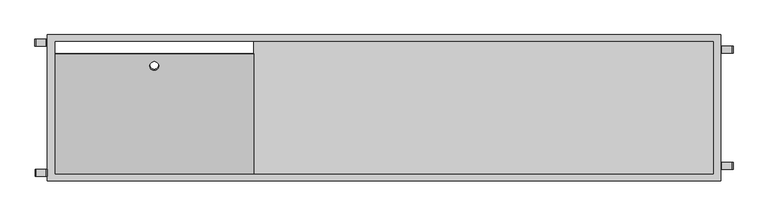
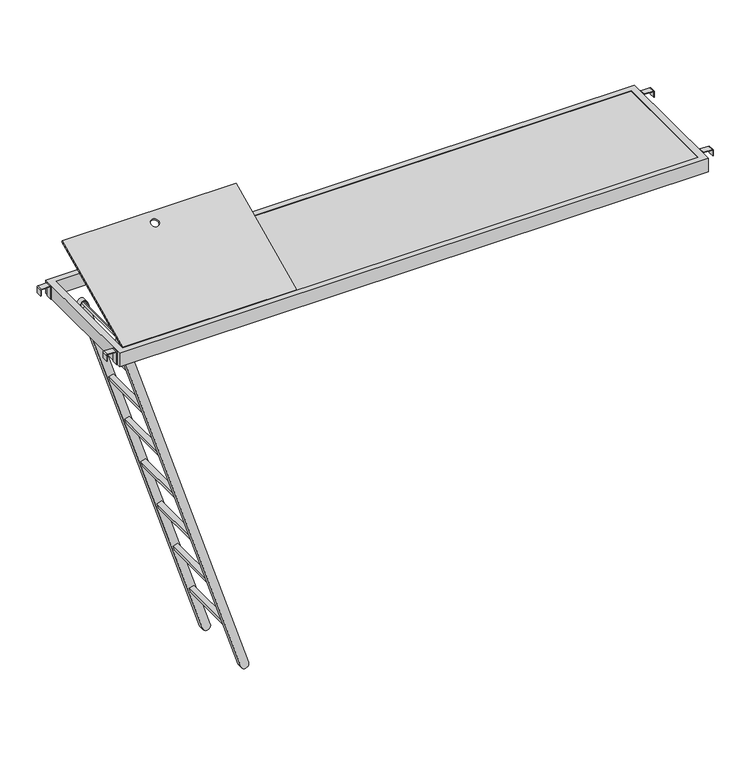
"""IFC4 building model written with IfcOpenShell, lengths in millimetres: proxy geometry, 07-Plancher trappe : JPA Plancher trappe."""

from ifc_helpers import new_model, si_unit, point, frame, frame_2d, origin, place, context, project, spatial, polyline, circle_curve, trimmed, segment, composite_curve, outline, extrude, source, transform, mapped, element, save


def generic_models_870fb608(model_context):
    return source(origin(), model_context, "Body", "SweptSolid", [
        extrude(outline(composite_curve([segment(polyline([(-54.1630286, 94.4374889), (-61.8230668, 96.8900707), (-60.9082762, 99.7471949), (-53.2482381, 97.294613)]), True, "CONTINUOUS"), segment(trimmed(circle_curve(frame_2d((-48.2168899, 113.0087957)), 16.5), [point((-53.2482381, 97.294613))], [point((-43.1855417, 128.7229783))], True, "CARTESIAN"), True, "CONTINUOUS"), segment(polyline([(-43.1855417, 128.7229783), (-56.8801082, 133.1076882), (-67.8575951, 98.8221988), (-1972.6070048, 708.6825815)]), True, "CONTINUOUS"), segment(trimmed(circle_curve(frame_2d((-1966.6608661, 727.2538883)), 19.5), [point((-1972.6070048, 708.6825815))], [point((-1960.7147273, 745.825195))], False, "CARTESIAN"), True, "CONTINUOUS"), segment(polyline([(-1960.7147273, 745.825195), (-42.2707512, 131.5801024)]), True, "CONTINUOUS"), segment(trimmed(circle_curve(frame_2d((-48.2168899, 113.0087957)), 19.5), [point((-42.2707512, 131.5801024))], [point((-54.1630286, 94.4374889))], False, "CARTESIAN"), True, "CONTINUOUS")], self_intersect=False)), frame((0.0, 157.7, 0.0), z_axis=(0.0, 1.0, 0.0), x_axis=(0.0, 0.0, 1.0)), (0.0, 0.0, 1.0), 26.0),
        extrude(outline(polyline([(0.0, -25.0), (0.0, 0.0), (305.3, 0.0), (305.3, -25.0), (0.0, -25.0)])), frame((647.1973067, 185.0, -1757.6167469), z_axis=(-0.3049301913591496, 0.0, 0.9523747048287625), x_axis=(0.0, 1.0, 0.0)), (0.0, 0.0, 1.0), 25.0),
        extrude(outline(polyline([(0.0, -25.0), (0.0, 0.0), (305.3, 0.0), (305.3, -25.0), (0.0, -25.0)])), frame((566.5432711, 185.0, -1505.7136375), z_axis=(-0.30493019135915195, 0.0, 0.9523747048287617), x_axis=(0.0, 1.0, 0.0)), (0.0, 0.0, 1.0), 25.0),
        extrude(outline(polyline([(0.0, -25.0), (0.0, 0.0), (305.3, 0.0), (305.3, -25.0), (0.0, -25.0)])), frame((485.8892355, 185.0, -1253.8105281), z_axis=(-0.3049301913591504, 0.0, 0.9523747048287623), x_axis=(0.0, 1.0, 0.0)), (0.0, 0.0, 1.0), 25.0),
        extrude(outline(polyline([(0.0, -25.0), (0.0, 0.0), (305.3, 0.0), (305.3, -25.0), (0.0, -25.0)])), frame((405.2351998, 185.0, -1001.9074186), z_axis=(-0.3049301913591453, 0.0, 0.952374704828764), x_axis=(0.0, 1.0, 0.0)), (0.0, 0.0, 1.0), 25.0),
        extrude(outline(polyline([(0.0, -25.0), (0.0, 0.0), (305.3, 0.0), (305.3, -25.0), (0.0, -25.0)])), frame((324.5811642, 185.0, -750.0043092), z_axis=(-0.3049301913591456, 0.0, 0.9523747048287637), x_axis=(0.0, 1.0, 0.0)), (0.0, 0.0, 1.0), 25.0),
        extrude(outline(polyline([(0.0, -25.0), (0.0, 0.0), (305.3, 0.0), (305.3, -25.0), (0.0, -25.0)])), frame((243.9271286, 185.0, -498.1011998), z_axis=(-0.3049301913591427, 0.0, 0.9523747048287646), x_axis=(0.0, 1.0, 0.0)), (0.0, 0.0, 1.0), 25.0),
        extrude(outline(polyline([(0.0, -25.0), (0.0, 0.0), (305.3, 0.0), (305.3, -25.0), (0.0, -25.0)])), frame((163.273093, 185.0, -246.1980904), z_axis=(-0.30493019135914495, 0.0, 0.952374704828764), x_axis=(0.0, 1.0, 0.0)), (0.0, 0.0, 1.0), 25.0),
        extrude(outline(composite_curve([segment(trimmed(circle_curve(frame_2d((-37.25, 109.5)), 5.0), [point((-42.25, 109.5))], [point((-32.25, 109.5))], False, "CARTESIAN"), True, "CONTINUOUS"), segment(trimmed(circle_curve(frame_2d((-37.25, 109.5)), 5.0), [point((-32.25, 109.5))], [point((-42.25, 109.5))], False, "CARTESIAN"), True, "CONTINUOUS")], self_intersect=False)), frame((0.0, 185.0, 0.0), z_axis=(0.0, 1.0, 0.0), x_axis=(0.0, 0.0, 1.0)), (0.0, 0.0, 1.0), 305.3),
        extrude(outline(composite_curve([segment(polyline([(-54.1630286, 94.4374889), (-61.8230668, 96.8900707), (-60.9082762, 99.7471949), (-53.2482381, 97.294613)]), True, "CONTINUOUS"), segment(trimmed(circle_curve(frame_2d((-48.2168899, 113.0087957)), 16.5), [point((-53.2482381, 97.294613))], [point((-43.1855417, 128.7229783))], True, "CARTESIAN"), True, "CONTINUOUS"), segment(polyline([(-43.1855417, 128.7229783), (-56.8801082, 133.1076882), (-67.8575951, 98.8221988), (-1972.6070048, 708.6825815)]), True, "CONTINUOUS"), segment(trimmed(circle_curve(frame_2d((-1966.6608661, 727.2538883)), 19.5), [point((-1972.6070048, 708.6825815))], [point((-1960.7147273, 745.825195))], False, "CARTESIAN"), True, "CONTINUOUS"), segment(polyline([(-1960.7147273, 745.825195), (-42.2707512, 131.5801024)]), True, "CONTINUOUS"), segment(trimmed(circle_curve(frame_2d((-48.2168899, 113.0087957)), 19.5), [point((-42.2707512, 131.5801024))], [point((-54.1630286, 94.4374889))], False, "CARTESIAN"), True, "CONTINUOUS")], self_intersect=False)), frame((0.0, 490.3, 0.0), z_axis=(0.0, 1.0, 0.0), x_axis=(0.0, 0.0, 1.0)), (0.0, 0.0, 1.0), 26.0),
        extrude(outline(polyline([(1770.0, 0.0), (1770.0, -579.0), (900.0, -579.0), (900.0, 0.0), (1770.0, 0.0)]), holes=[composite_curve([segment(trimmed(circle_curve(frame_2d((1334.108179, -57.2815378)), 20.0), [point((1314.108179, -57.2815378))], [point((1354.108179, -57.2815378))], True, "CARTESIAN"), True, "CONTINUOUS"), segment(trimmed(circle_curve(frame_2d((1334.108179, -57.2815378)), 20.0), [point((1354.108179, -57.2815378))], [point((1314.108179, -57.2815378))], True, "CARTESIAN"), True, "CONTINUOUS")], self_intersect=False)]), frame((-840.5, 588.4946231, 242.8203874), z_axis=(0.0, -0.42261826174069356, 0.9063077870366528), x_axis=(1.0, 0.0, 0.0)), (0.0, 0.0, 1.0), 7.25),
        extrude(outline(polyline([(2939.5, 639.5), (2939.5, 60.5), (929.5, 60.5), (929.5, 639.5), (2939.5, 639.5)])), frame((0.0, 0.0, -7.25), z_axis=(0.0, 0.0, 1.0), x_axis=(1.0, 0.0, 0.0)), (0.0, 0.0, 1.0), 7.25),
        extrude(outline(composite_curve([segment(polyline([(-32.25, -26.0), (-2.75, -26.0)]), True, "CONTINUOUS"), segment(trimmed(circle_curve(frame_2d((-2.75, -23.0)), 3.0), [point((-2.75, -26.0))], [point((0.25, -23.0))], True, "CARTESIAN"), True, "CONTINUOUS"), segment(polyline([(0.25, -23.0), (0.25, 20.0)]), True, "CONTINUOUS"), segment(trimmed(circle_curve(frame_2d((-2.75, 20.0)), 3.0), [point((0.25, 20.0))], [point((-2.75, 23.0))], True, "CARTESIAN"), True, "CONTINUOUS"), segment(polyline([(-2.75, 23.0), (-67.25, 23.0), (-67.25, 25.5), (-2.25, 25.5)]), True, "CONTINUOUS"), segment(trimmed(circle_curve(frame_2d((-2.25, 20.5)), 5.0), [point((-2.25, 25.5))], [point((2.75, 20.5))], False, "CARTESIAN"), True, "CONTINUOUS"), segment(polyline([(2.75, 20.5), (2.75, -23.5)]), True, "CONTINUOUS"), segment(trimmed(circle_curve(frame_2d((-2.25, -23.5)), 5.0), [point((2.75, -23.5))], [point((-2.25, -28.5))], False, "CARTESIAN"), True, "CONTINUOUS"), segment(polyline([(-2.25, -28.5), (-32.25, -28.5), (-32.25, -26.0)]), True, "CONTINUOUS")], self_intersect=False)), frame((0.0, 620.5, 0.0), z_axis=(0.0, 1.0, 0.0), x_axis=(0.0, 0.0, 1.0)), (0.0, 0.0, 1.0), 30.0),
        extrude(outline(composite_curve([segment(polyline([(-32.25, -25.0), (-2.75, -25.0)]), True, "CONTINUOUS"), segment(trimmed(circle_curve(frame_2d((-2.75, -22.0)), 3.0), [point((-2.75, -25.0))], [point((0.25, -22.0))], True, "CARTESIAN"), True, "CONTINUOUS"), segment(polyline([(0.25, -22.0), (0.25, 21.0)]), True, "CONTINUOUS"), segment(trimmed(circle_curve(frame_2d((-2.75, 21.0)), 3.0), [point((0.25, 21.0))], [point((-2.75, 24.0))], True, "CARTESIAN"), True, "CONTINUOUS"), segment(polyline([(-2.75, 24.0), (-67.25, 24.0), (-67.25, 26.5), (-2.25, 26.5)]), True, "CONTINUOUS"), segment(trimmed(circle_curve(frame_2d((-2.25, 21.5)), 5.0), [point((-2.25, 26.5))], [point((2.75, 21.5))], False, "CARTESIAN"), True, "CONTINUOUS"), segment(polyline([(2.75, 21.5), (2.75, -22.5)]), True, "CONTINUOUS"), segment(trimmed(circle_curve(frame_2d((-2.25, -22.5)), 5.0), [point((2.75, -22.5))], [point((-2.25, -27.5))], False, "CARTESIAN"), True, "CONTINUOUS"), segment(polyline([(-2.25, -27.5), (-32.25, -27.5), (-32.25, -25.0)]), True, "CONTINUOUS")], self_intersect=False)), frame((0.0, 50.0, 0.0), z_axis=(0.0, 1.0, 0.0), x_axis=(0.0, 0.0, 1.0)), (0.0, 0.0, 1.0), 30.0),
        extrude(outline(composite_curve([segment(polyline([(2.75, 3021.5), (2.75, 2977.5)]), True, "CONTINUOUS"), segment(trimmed(circle_curve(frame_2d((-2.25, 2977.5)), 5.0), [point((2.75, 2977.5))], [point((-2.25, 2972.5))], False, "CARTESIAN"), True, "CONTINUOUS"), segment(polyline([(-2.25, 2972.5), (-67.25, 2972.5), (-67.25, 2975.0), (-2.75, 2975.0)]), True, "CONTINUOUS"), segment(trimmed(circle_curve(frame_2d((-2.75, 2978.0)), 3.0), [point((-2.75, 2975.0))], [point((0.25, 2978.0))], True, "CARTESIAN"), True, "CONTINUOUS"), segment(polyline([(0.25, 2978.0), (0.25, 3021.0)]), True, "CONTINUOUS"), segment(trimmed(circle_curve(frame_2d((-2.75, 3021.0)), 3.0), [point((0.25, 3021.0))], [point((-2.75, 3024.0))], True, "CARTESIAN"), True, "CONTINUOUS"), segment(polyline([(-2.75, 3024.0), (-32.25, 3024.0), (-32.25, 3026.5), (-2.25, 3026.5)]), True, "CONTINUOUS"), segment(trimmed(circle_curve(frame_2d((-2.25, 3021.5)), 5.0), [point((-2.25, 3026.5))], [point((2.75, 3021.5))], False, "CARTESIAN"), True, "CONTINUOUS")], self_intersect=False)), frame((0.0, 80.0, 0.0), z_axis=(0.0, 1.0, 0.0), x_axis=(0.0, 0.0, 1.0)), (0.0, 0.0, 1.0), 30.0),
        extrude(outline(composite_curve([segment(polyline([(2.75, 3021.5), (2.75, 2977.5)]), True, "CONTINUOUS"), segment(trimmed(circle_curve(frame_2d((-2.25, 2977.5)), 5.0), [point((2.75, 2977.5))], [point((-2.25, 2972.5))], False, "CARTESIAN"), True, "CONTINUOUS"), segment(polyline([(-2.25, 2972.5), (-67.25, 2972.5), (-67.25, 2975.0), (-2.75, 2975.0)]), True, "CONTINUOUS"), segment(trimmed(circle_curve(frame_2d((-2.75, 2978.0)), 3.0), [point((-2.75, 2975.0))], [point((0.25, 2978.0))], True, "CARTESIAN"), True, "CONTINUOUS"), segment(polyline([(0.25, 2978.0), (0.25, 3021.0)]), True, "CONTINUOUS"), segment(trimmed(circle_curve(frame_2d((-2.75, 3021.0)), 3.0), [point((0.25, 3021.0))], [point((-2.75, 3024.0))], True, "CARTESIAN"), True, "CONTINUOUS"), segment(polyline([(-2.75, 3024.0), (-32.25, 3024.0), (-32.25, 3026.5), (-2.25, 3026.5)]), True, "CONTINUOUS"), segment(trimmed(circle_curve(frame_2d((-2.25, 3021.5)), 5.0), [point((-2.25, 3026.5))], [point((2.75, 3021.5))], False, "CARTESIAN"), True, "CONTINUOUS")], self_intersect=False)), frame((0.0, 590.0, 0.0), z_axis=(0.0, 1.0, 0.0), x_axis=(0.0, 0.0, 1.0)), (0.0, 0.0, 1.0), 30.0),
        extrude(outline(composite_curve([segment(polyline([(2.75, 3021.5), (2.75, 2977.5)]), True, "CONTINUOUS"), segment(trimmed(circle_curve(frame_2d((-2.25, 2977.5)), 5.0), [point((2.75, 2977.5))], [point((-2.25, 2972.5))], False, "CARTESIAN"), True, "CONTINUOUS"), segment(polyline([(-2.25, 2972.5), (-67.25, 2972.5), (-67.25, 2975.0), (-2.75, 2975.0)]), True, "CONTINUOUS"), segment(trimmed(circle_curve(frame_2d((-2.75, 2978.0)), 3.0), [point((-2.75, 2975.0))], [point((0.25, 2978.0))], True, "CARTESIAN"), True, "CONTINUOUS"), segment(polyline([(0.25, 2978.0), (0.25, 3021.0)]), True, "CONTINUOUS"), segment(trimmed(circle_curve(frame_2d((-2.75, 3021.0)), 3.0), [point((0.25, 3021.0))], [point((-2.75, 3024.0))], True, "CARTESIAN"), True, "CONTINUOUS"), segment(polyline([(-2.75, 3024.0), (-32.25, 3024.0), (-32.25, 3026.5), (-2.25, 3026.5)]), True, "CONTINUOUS"), segment(trimmed(circle_curve(frame_2d((-2.25, 3021.5)), 5.0), [point((-2.25, 3026.5))], [point((2.75, 3021.5))], False, "CARTESIAN"), True, "CONTINUOUS")], self_intersect=False)), frame((0.0, 80.0, 0.0), z_axis=(0.0, 1.0, 0.0), x_axis=(0.0, 0.0, 1.0)), (0.0, 0.0, 1.0), 30.0),
        extrude(outline(polyline([(2972.5, 670.0), (2972.5, 30.0), (26.5, 30.0), (26.5, 670.0), (2972.5, 670.0)]), holes=[polyline([(59.5, 60.5), (2939.5, 60.5), (2939.5, 639.5), (59.5, 639.5), (59.5, 60.5)])]), frame((0.0, 0.0, -67.25), z_axis=(0.0, 0.0, 1.0), x_axis=(1.0, 0.0, 0.0)), (0.0, 0.0, 1.0), 70.0),
    ])


if __name__ == "__main__":
    model = new_model("IFC4")
    model_context = context("Model", 3, world=origin())
    ifc_project = project(units=[si_unit("LENGTHUNIT", "METRE", prefix="MILLI")], contexts=[model_context])
    site = spatial("IfcSite", under=ifc_project)
    building = spatial("IfcBuilding", under=site)
    placement = place(None, origin())
    generic_models_shape = generic_models_870fb608(model_context)
    element("IfcBuildingElementProxy", 1, Name="07-Plancher trappe : JPA Plancher trappe", ObjectType="07-Plancher trappe : JPA Plancher trappe", at=placement, inside=building, context=model_context, shape_type="MappedRepresentation", body=[
        mapped(generic_models_shape, transform((0.0, 0.0, 0.0), x_axis=(1.0, 0.0, 0.0), y_axis=(0.0, 1.0, 0.0), z_axis=(0.0, 0.0, 1.0))),
    ])
    save(model, "model.ifc")
